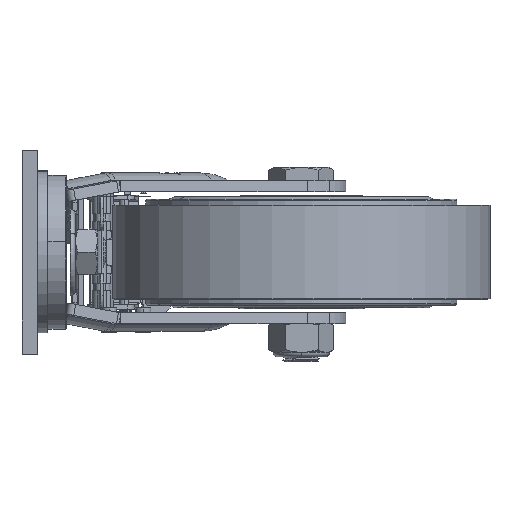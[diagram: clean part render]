
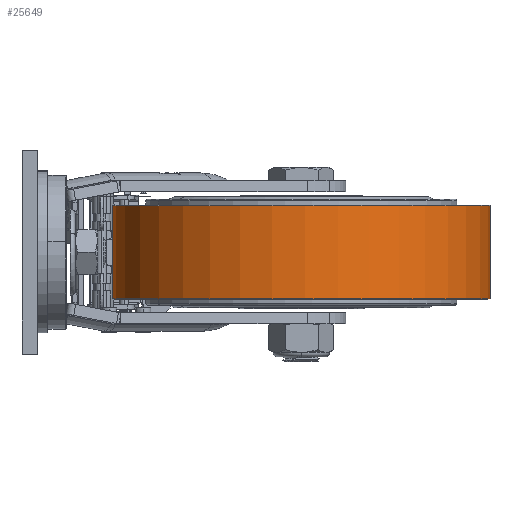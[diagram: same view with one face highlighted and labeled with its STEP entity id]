
A CAD part, left-side view. The second image highlights one B-rep face of the part: STEP entity #25649.
In plain terms, the highlighted cylindrical face has radius 100 mm (diameter 200 mm), a partial arc.
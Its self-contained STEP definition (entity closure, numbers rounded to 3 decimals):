
#23531=DIRECTION('',(0.,0.,1.));
#23532=VECTOR('',#23531,49.5);
#23533=CARTESIAN_POINT('',(53.142,-48.017,-24.75));
#23534=LINE('',#23533,#23532);
#23535=DIRECTION('',(0.,0.,1.));
#23536=VECTOR('',#23535,49.5);
#23537=CARTESIAN_POINT('',(56.858,-247.983,-24.75));
#23538=LINE('',#23537,#23536);
#23539=CARTESIAN_POINT('',(55.,-148.,-24.75));
#23540=DIRECTION('',(0.,0.,1.));
#23541=DIRECTION('',(-0.019,1.,0.));
#23542=AXIS2_PLACEMENT_3D('',#23539,#23540,#23541);
#23562=CARTESIAN_POINT('',(55.,-148.,24.75));
#23563=DIRECTION('',(0.,0.,1.));
#23564=DIRECTION('',(-0.019,1.,0.));
#23565=AXIS2_PLACEMENT_3D('',#23562,#23563,#23564);
#24426=CARTESIAN_POINT('',(53.142,-48.017,-24.75));
#24428=VERTEX_POINT('',#24426);
#24429=CARTESIAN_POINT('',(53.142,-48.017,24.75));
#24430=VERTEX_POINT('',#24429);
#24442=CARTESIAN_POINT('',(56.858,-247.983,-24.75));
#24444=VERTEX_POINT('',#24442);
#24445=CARTESIAN_POINT('',(56.858,-247.983,24.75));
#24446=VERTEX_POINT('',#24445);
#25635=CARTESIAN_POINT('',(55.,-148.,27.5));
#25636=DIRECTION('',(0.,0.,-1.));
#25637=DIRECTION('',(0.019,-1.,0.));
#25638=AXIS2_PLACEMENT_3D('',#25635,#25636,#25637);
#25639=CYLINDRICAL_SURFACE('',#25638,100.);
#25641=ORIENTED_EDGE('',*,*,#25640,.T.);
#25643=ORIENTED_EDGE('',*,*,#25642,.T.);
#25645=ORIENTED_EDGE('',*,*,#25644,.F.);
#25646=ORIENTED_EDGE('',*,*,#25621,.F.);
#25647=EDGE_LOOP('',(#25641,#25643,#25645,#25646));
#25648=FACE_OUTER_BOUND('',#25647,.F.);
#23543=CIRCLE('',#23542,100.);
#23566=CIRCLE('',#23565,100.);
#25621=EDGE_CURVE('',#24428,#24444,#23543,.T.);
#25640=EDGE_CURVE('',#24428,#24430,#23534,.T.);
#25642=EDGE_CURVE('',#24430,#24446,#23566,.T.);
#25644=EDGE_CURVE('',#24444,#24446,#23538,.T.);
#25649=ADVANCED_FACE('',(#25648),#25639,.T.);
